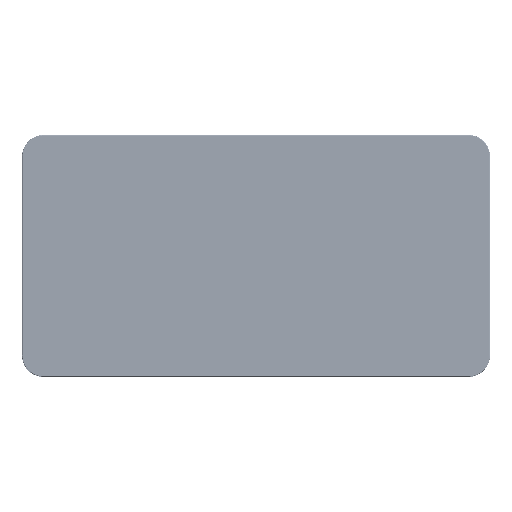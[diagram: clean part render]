
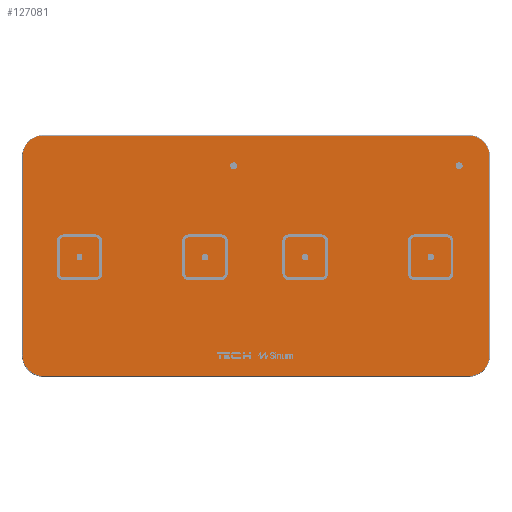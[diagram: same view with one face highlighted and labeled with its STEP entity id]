
A CAD part, top view. The second image highlights one B-rep face of the part: STEP entity #127081.
In plain terms, the highlighted planar face has unit normal (0, 0, 1) as drawn and (0, 1, 0) by its records, which use the part's own axes.
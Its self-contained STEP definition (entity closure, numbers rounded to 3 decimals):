
#11446=B_SPLINE_CURVE_WITH_KNOTS('',3,(#198094,#198095,#198096,#198097,
#198098,#198099),.UNSPECIFIED.,.F.,.F.,(4,1,1,4),(0.,0.327,
0.653,1.143),.UNSPECIFIED.);
#11447=B_SPLINE_CURVE_WITH_KNOTS('',3,(#198136,#198137,#198138,#198139,
#198140,#198141),.UNSPECIFIED.,.F.,.F.,(4,1,1,4),(0.,0.49,
0.817,1.143),.UNSPECIFIED.);
#11448=B_SPLINE_CURVE_WITH_KNOTS('',3,(#198178,#198179,#198180,#198181,
#198182,#198183),.UNSPECIFIED.,.F.,.F.,(4,1,1,4),(0.,0.327,
0.653,1.143),.UNSPECIFIED.);
#11450=B_SPLINE_CURVE_WITH_KNOTS('',3,(#198226,#198227,#198228,#198229,
#198230,#198231),.UNSPECIFIED.,.F.,.F.,(4,1,1,4),(0.,0.327,
0.653,1.143),.UNSPECIFIED.);
#13189=PLANE('',#135100);
#16799=FACE_OUTER_BOUND('',#24331,.T.);
#24331=EDGE_LOOP('',(#95105,#95106,#95107,#95108,#95109,#95110,#95111,#95112));
#34270=LINE('',#198052,#45339);
#34272=LINE('',#198103,#45341);
#34273=LINE('',#198145,#45342);
#34275=LINE('',#198189,#45344);
#45339=VECTOR('',#150908,69.795);
#45341=VECTOR('',#150918,149.134);
#45342=VECTOR('',#150925,69.795);
#45344=VECTOR('',#150933,149.134);
#57989=VERTEX_POINT('',#198049);
#57990=VERTEX_POINT('',#198051);
#57992=VERTEX_POINT('',#198086);
#57993=VERTEX_POINT('',#198101);
#57994=VERTEX_POINT('',#198134);
#57995=VERTEX_POINT('',#198143);
#57996=VERTEX_POINT('',#198176);
#57997=VERTEX_POINT('',#198185);
#72443=EDGE_CURVE('',#57989,#57990,#34270,.T.);
#72448=EDGE_CURVE('',#57990,#57992,#11446,.T.);
#72450=EDGE_CURVE('',#57992,#57993,#34272,.T.);
#72452=EDGE_CURVE('',#57993,#57994,#11447,.T.);
#72454=EDGE_CURVE('',#57994,#57995,#34273,.T.);
#72456=EDGE_CURVE('',#57995,#57996,#11448,.T.);
#72459=EDGE_CURVE('',#57996,#57997,#34275,.T.);
#72461=EDGE_CURVE('',#57997,#57989,#11450,.T.);
#95105=ORIENTED_EDGE('',*,*,#72443,.F.);
#95106=ORIENTED_EDGE('',*,*,#72461,.F.);
#95107=ORIENTED_EDGE('',*,*,#72459,.F.);
#95108=ORIENTED_EDGE('',*,*,#72456,.F.);
#95109=ORIENTED_EDGE('',*,*,#72454,.F.);
#95110=ORIENTED_EDGE('',*,*,#72452,.F.);
#95111=ORIENTED_EDGE('',*,*,#72450,.F.);
#95112=ORIENTED_EDGE('',*,*,#72448,.F.);
#127081=ADVANCED_FACE('',(#16799),#13189,.T.);
#135100=AXIS2_PLACEMENT_3D('',#198259,#150941,#150942);
#150908=DIRECTION('',(-1.,0.,0.));
#150918=DIRECTION('',(0.,0.,-1.));
#150925=DIRECTION('',(1.,0.,0.));
#150933=DIRECTION('',(0.,0.,1.));
#150941=DIRECTION('center_axis',(0.,1.,0.));
#150942=DIRECTION('ref_axis',(0.,0.,1.));
#198049=CARTESIAN_POINT('',(0.328,2.8,160.402));
#198051=CARTESIAN_POINT('',(-69.467,2.8,160.402));
#198052=CARTESIAN_POINT('',(0.328,2.8,160.402));
#198086=CARTESIAN_POINT('',(-76.744,2.8,153.125));
#198094=CARTESIAN_POINT('Ctrl Pts',(-69.467,2.8,160.402));
#198095=CARTESIAN_POINT('Ctrl Pts',(-70.556,2.8,160.402));
#198096=CARTESIAN_POINT('Ctrl Pts',(-72.73,2.8,159.907));
#198097=CARTESIAN_POINT('Ctrl Pts',(-75.793,2.8,157.473));
#198098=CARTESIAN_POINT('Ctrl Pts',(-76.744,2.8,154.759));
#198099=CARTESIAN_POINT('Ctrl Pts',(-76.744,2.8,153.125));
#198101=CARTESIAN_POINT('',(-76.744,2.8,3.991));
#198103=CARTESIAN_POINT('',(-76.744,2.8,153.125));
#198134=CARTESIAN_POINT('',(-69.467,2.8,-3.286));
#198136=CARTESIAN_POINT('Ctrl Pts',(-76.744,2.8,3.991));
#198137=CARTESIAN_POINT('Ctrl Pts',(-76.744,2.8,2.358));
#198138=CARTESIAN_POINT('Ctrl Pts',(-75.794,2.8,-0.356));
#198139=CARTESIAN_POINT('Ctrl Pts',(-72.73,2.8,-2.791));
#198140=CARTESIAN_POINT('Ctrl Pts',(-70.556,2.8,-3.286));
#198141=CARTESIAN_POINT('Ctrl Pts',(-69.467,2.8,-3.286));
#198143=CARTESIAN_POINT('',(0.328,2.8,-3.286));
#198145=CARTESIAN_POINT('',(-69.467,2.8,-3.286));
#198176=CARTESIAN_POINT('',(7.605,2.8,3.991));
#198178=CARTESIAN_POINT('Ctrl Pts',(0.328,2.8,-3.286));
#198179=CARTESIAN_POINT('Ctrl Pts',(1.417,2.8,-3.286));
#198180=CARTESIAN_POINT('Ctrl Pts',(3.592,2.8,-2.791));
#198181=CARTESIAN_POINT('Ctrl Pts',(6.657,2.8,-0.357));
#198182=CARTESIAN_POINT('Ctrl Pts',(7.605,2.8,2.358));
#198183=CARTESIAN_POINT('Ctrl Pts',(7.605,2.8,3.991));
#198185=CARTESIAN_POINT('',(7.605,2.8,153.125));
#198189=CARTESIAN_POINT('',(7.605,2.8,3.991));
#198226=CARTESIAN_POINT('Ctrl Pts',(7.605,2.8,153.125));
#198227=CARTESIAN_POINT('Ctrl Pts',(7.605,2.8,154.214));
#198228=CARTESIAN_POINT('Ctrl Pts',(7.11,2.8,156.389));
#198229=CARTESIAN_POINT('Ctrl Pts',(4.676,2.8,159.452));
#198230=CARTESIAN_POINT('Ctrl Pts',(1.962,2.8,160.402));
#198231=CARTESIAN_POINT('Ctrl Pts',(0.328,2.8,160.402));
#198259=CARTESIAN_POINT('Origin',(-34.6,2.8,78.589));
